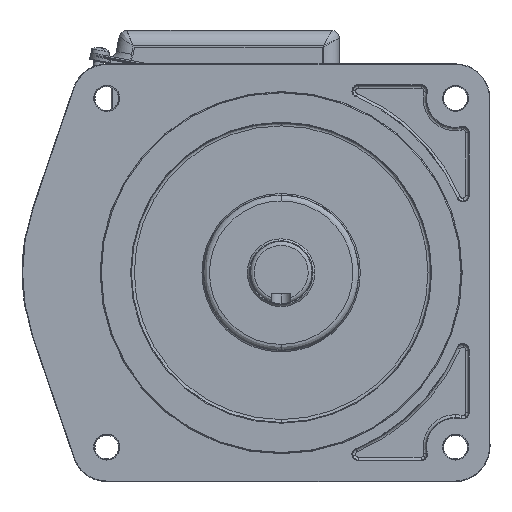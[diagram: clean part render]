
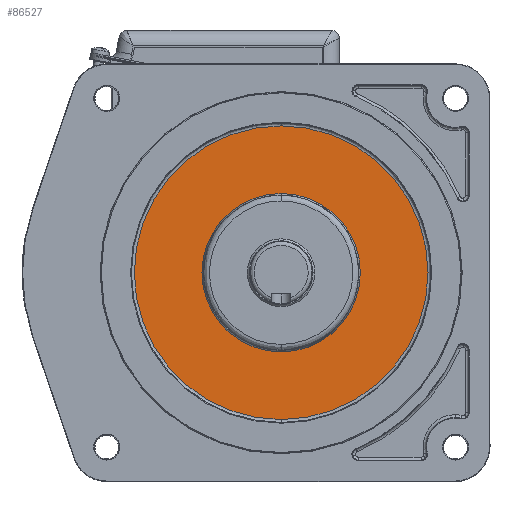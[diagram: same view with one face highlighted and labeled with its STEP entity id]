
A CAD part, top view. The second image highlights one B-rep face of the part: STEP entity #86527.
In plain terms, the highlighted planar face has unit normal (0, 0, 1).
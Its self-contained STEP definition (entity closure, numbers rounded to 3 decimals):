
#56245 = DIRECTION ( 'NONE',  ( 1., 0., 0. ) ) ;
#56247 = DIRECTION ( 'NONE',  ( 0., 0., 1. ) ) ;
#56249 = AXIS2_PLACEMENT_3D ( 'NONE', #56259, #56247, #56245 ) ;
#56250 = CIRCLE ( 'NONE', #56249, 75.929 ) ;
#56259 = CARTESIAN_POINT ( 'NONE',  ( 0., 30., 114. ) ) ;
#56313 = CARTESIAN_POINT ( 'NONE',  ( 75.929, 30., 114. ) ) ;
#56314 = CARTESIAN_POINT ( 'NONE',  ( -75.929, 30., 114. ) ) ;
#56975 = CARTESIAN_POINT ( 'NONE',  ( 25.464, 30., 114. ) ) ;
#56976 = DIRECTION ( 'NONE',  ( -1., 0., 0. ) ) ;
#56978 = DIRECTION ( 'NONE',  ( 0., 0., 1. ) ) ;
#56979 = CARTESIAN_POINT ( 'NONE',  ( 0., 30., 114. ) ) ;
#56981 = AXIS2_PLACEMENT_3D ( 'NONE', #56979, #56978, #56976 ) ;
#56983 = CIRCLE ( 'NONE', #56981, 25.464 ) ;
#57240 = CARTESIAN_POINT ( 'NONE',  ( -25.464, 30., 114. ) ) ;
#61998 = DIRECTION ( 'NONE',  ( 1., 0., 0. ) ) ;
#62000 = DIRECTION ( 'NONE',  ( 0., 0., 1. ) ) ;
#62001 = CIRCLE ( 'NONE', #62144, 25.464 ) ;
#62006 = CARTESIAN_POINT ( 'NONE',  ( 90., 120., 114. ) ) ;
#62008 = AXIS2_PLACEMENT_3D ( 'NONE', #62006, #62000, #61998 ) ;
#62010 = PLANE ( 'NONE',  #62008 ) ;
#62012 = FACE_OUTER_BOUND ( 'NONE', #86532, .T. ) ;
#62013 = FACE_BOUND ( 'NONE', #86528, .T. ) ;
#62129 = DIRECTION ( 'NONE',  ( 1., 0., 0. ) ) ;
#62130 = DIRECTION ( 'NONE',  ( 0., 0., 1. ) ) ;
#62131 = CARTESIAN_POINT ( 'NONE',  ( 0., 30., 114. ) ) ;
#62133 = AXIS2_PLACEMENT_3D ( 'NONE', #62131, #62130, #62129 ) ;
#62134 = CIRCLE ( 'NONE', #62133, 75.929 ) ;
#62138 = DIRECTION ( 'NONE',  ( -1., 0., 0. ) ) ;
#62140 = DIRECTION ( 'NONE',  ( 0., 0., 1. ) ) ;
#62142 = CARTESIAN_POINT ( 'NONE',  ( 0., 30., 114. ) ) ;
#62144 = AXIS2_PLACEMENT_3D ( 'NONE', #62142, #62140, #62138 ) ;
#85118 = EDGE_CURVE ( 'NONE', #85119, #85120, #56250, .T. ) ;
#85119 = VERTEX_POINT ( 'NONE', #56314 ) ;
#85120 = VERTEX_POINT ( 'NONE', #56313 ) ;
#85280 = EDGE_CURVE ( 'NONE', #85333, #85281, #56983, .T. ) ;
#85281 = VERTEX_POINT ( 'NONE', #56975 ) ;
#85333 = VERTEX_POINT ( 'NONE', #57240 ) ;
#86492 = ORIENTED_EDGE ( 'NONE', *, *, #85118, .T. ) ;
#86527 = ADVANCED_FACE ( 'NONE', ( #62013, #62012 ), #62010, .T. ) ;
#86528 = EDGE_LOOP ( 'NONE', ( #86529, #86530 ) ) ;
#86529 = ORIENTED_EDGE ( 'NONE', *, *, #85280, .F. ) ;
#86530 = ORIENTED_EDGE ( 'NONE', *, *, #86531, .F. ) ;
#86531 = EDGE_CURVE ( 'NONE', #85281, #85333, #62001, .T. ) ;
#86532 = EDGE_LOOP ( 'NONE', ( #86534, #86492 ) ) ;
#86534 = ORIENTED_EDGE ( 'NONE', *, *, #86535, .T. ) ;
#86535 = EDGE_CURVE ( 'NONE', #85120, #85119, #62134, .T. ) ;
